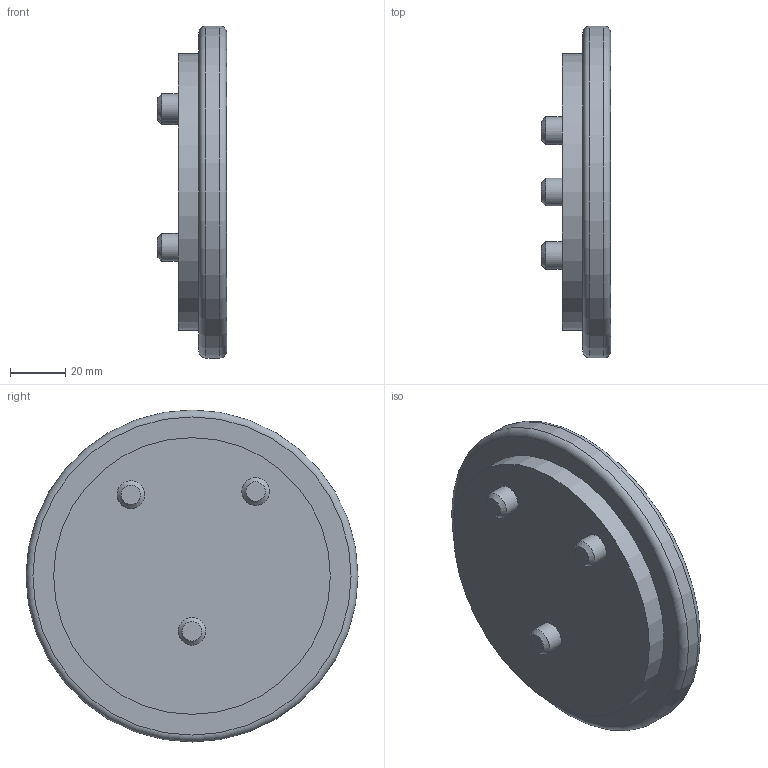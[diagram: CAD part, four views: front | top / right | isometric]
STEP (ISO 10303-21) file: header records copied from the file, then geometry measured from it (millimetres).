
FILE_DESCRIPTION(/* description */ (''),/* implementation_level */ '2;1');
FILE_NAME(/* name */ 'Right End (1).step',/* time_stamp */ '2024-01-09T11:40:35-05:00',/* author */ (''),/* organization */ (''),/* preprocessor_version */ 'ST-DEVELOPER v20',/* originating_system */ 'Autodesk Translation Framework v12.14.0.127',/* authorisation */ '');
FILE_SCHEMA (('AUTOMOTIVE_DESIGN { 1 0 10303 214 3 1 1 }'));
Length unit declared in the file: millimetre
Products named in the file (1): Right End (1)
Bounding box: 25 x 120 x 120 mm (x, y, z)
Volume: 172672 mm3; surface area: 28546.2 mm2
Topology: 1 solids, 1 shells, 16 faces, 25 edges, 15 vertices
Faces by surface type: plane 6, cylinder 5, cone 3, torus 2
Full cylindrical faces by diameter (mm): 10 x3, 100 x1, 120 x1
Entity records: 406 total; most frequent: DIRECTION 76, CARTESIAN_POINT 57, ORIENTED_EDGE 50, AXIS2_PLACEMENT_3D 34, EDGE_CURVE 25, EDGE_LOOP 20, CIRCLE 17, FACE_OUTER_BOUND 16
